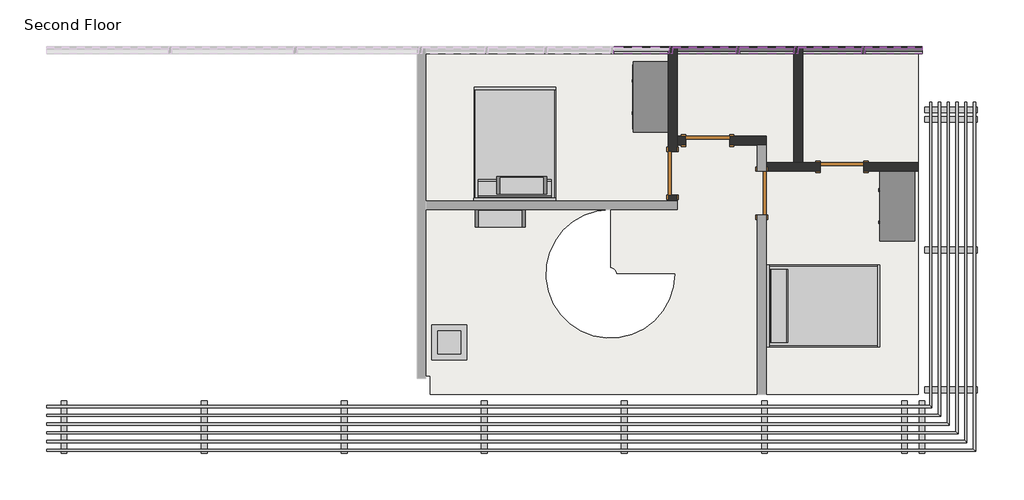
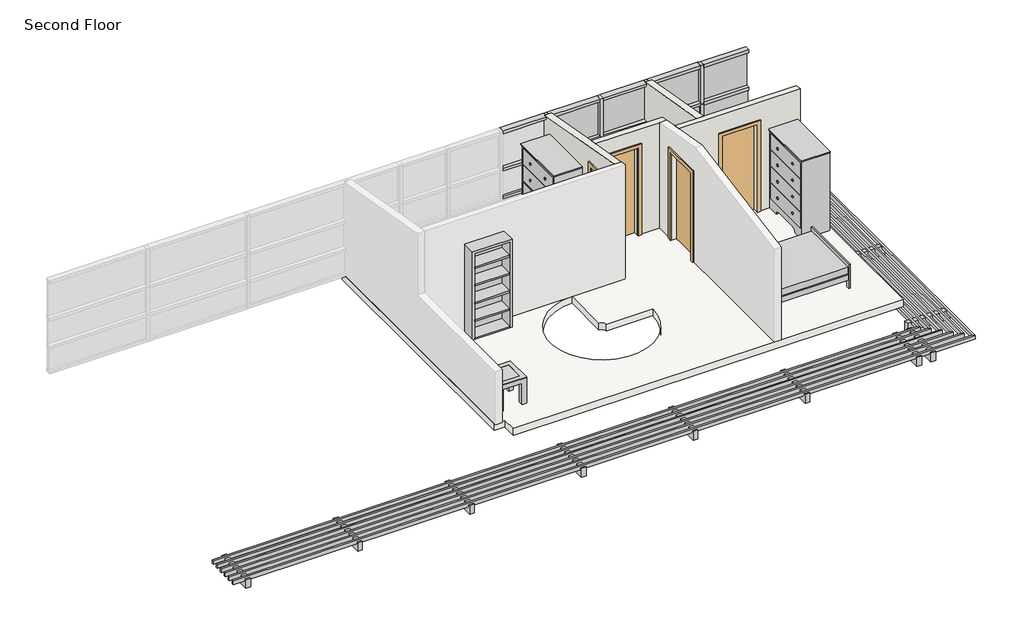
# One storey, part 2 of 2: 29 members, 10 plates, 7 furniture elements, 4 doors, 4 walls, 1 railing, 1 slab.
"""IFC4 building model written with IfcOpenShell, lengths in millimetres."""

from ifc_helpers import new_model, si_unit, point, frame, frame_2d, origin, place, context, project, spatial, polyline, circle_curve, trimmed, segment, composite_curve, outline, extrude, faceted_brep, transform, mapped, element, save
from components import door_059fdd7e, door_255cab33, furniture_096e7f55, bookcase_tall_reed_bookcase_tall_reed_faf8525b, furniture_9fa109b2, furniture_b5c51a22, rectangular_mullion_rectangular_mullion_1_6e77e263, rectangular_mullion_rectangular_mullion_1_51170729, rectangular_mullion_rectangular_mullion_1_02de63bf, rectangular_mullion_rectangular_mullion_1_5af5ffa1, rectangular_mullion_rectangular_mullion_1_cb608bd8, rectangular_mullion_rectangular_mullion_1_a2c6934b, rectangular_mullion_rectangular_mullion_1_a8fdea6a, rectangular_mullion_rectangular_mullion_1_47d101d4, rectangular_mullion_rectangular_mullion_1_b7acc795, rectangular_mullion_rectangular_mullion_1_c08724ad, rectangular_mullion_rectangular_mullion_1_400b9077, rectangular_mullion_rectangular_mullion_1_c3de6e3d, rectangular_mullion_rectangular_mullion_1_4643a8e7, rectangular_mullion_rectangular_mullion_1_71bdcf0b, rectangular_mullion_rectangular_mullion_1_437759a6, rectangular_mullion_rectangular_mullion_1_625f5eac, rectangular_mullion_rectangular_mullion_1_0cde6212, rectangular_mullion_rectangular_mullion_1_8e9d10e0, system_panel_glazed_3e889d5c, system_panel_glazed_0bad98d9, system_panel_glazed_1e53cb40, system_panel_glazed_f86903de, system_panel_solid_grey_abbc35b1, system_panel_solid_grey_94c4abe6, system_panel_solid_white_5ef82af7, system_panel_solid_white_b87bf759, system_panel_solid_white_3036c504, system_panel_solid_white_cda7d415, shading_9790fc35

model = new_model("IFC4")

# Units and contexts
model_context = context("Model", 3, world=origin())
ifc_project = project(units=[si_unit("LENGTHUNIT", "METRE", prefix="MILLI")], contexts=[model_context])

# Site, building, storey
site = spatial("IfcSite", under=ifc_project)
building = spatial("IfcBuilding", under=site)
storey = spatial("IfcBuildingStorey", under=building, Name="Second Floor", Elevation=3657.6)

# Doors
placement = place(None, origin())
door_shape = door_059fdd7e(model_context)
element("IfcDoor", 1, ObjectType="Single-Flush : 30\" x 80\"", at=placement, inside=storey, context=model_context, shape_type="MappedRepresentation", body=[
    mapped(door_shape, transform((831.9496593, 10555.9233945, 3657.6), x_axis=(1.0, 0.0, 0.0), y_axis=(0.0, 1.0, 0.0), z_axis=(0.0, 0.0, 1.0))),
])
element("IfcDoor", 2, ObjectType="Single-Flush : 30\" x 80\"", at=placement, inside=storey, context=model_context, shape_type="MappedRepresentation", body=[
    mapped(door_shape, transform((3170.563945, 10098.7233945, 3657.6), x_axis=(1.0, 0.0, 0.0), y_axis=(0.0, 1.0, 0.0), z_axis=(0.0, 0.0, 1.0))),
])
door_2_shape = door_255cab33(model_context)
element("IfcDoor", 3, ObjectType="Single-Flush : 30\" x 80\"", at=placement, inside=storey, context=model_context, shape_type="MappedRepresentation", body=[
    mapped(door_2_shape, transform((222.3496593, 9986.5400612, 3657.6), x_axis=(0.0, -1.0, 0.0), y_axis=(1.0, 0.0, 0.0), z_axis=(0.0, 0.0, 1.0))),
])
element("IfcDoor", 4, ObjectType="Single-Flush : 30\" x 80\"", at=placement, inside=storey, context=model_context, shape_type="MappedRepresentation", body=[
    mapped(door_2_shape, transform((1772.6568021, 9641.5233945, 3657.6), x_axis=(0.0, 1.0, 0.0), y_axis=(-1.0, 0.0, 0.0), z_axis=(0.0, 0.0, 1.0))),
])

# Furniture
furniture_shape = furniture_096e7f55(model_context)
element("IfcFurniture", 5, ObjectType="Bed-Shaker : Double 56\" x 78\"", at=placement, inside=storey, context=model_context, shape_type="MappedRepresentation", body=[
    mapped(furniture_shape, transform((1848.8568021, 7694.1900612, 3657.6), x_axis=(0.0, 1.0, 0.0), y_axis=(-1.0, 0.0, 0.0), z_axis=(0.0, 0.0, 1.0))),
])
element("IfcFurniture", 6, ObjectType="Bed-Shaker : Double 56\" x 78\"", at=placement, inside=storey, context=model_context, shape_type="MappedRepresentation", body=[
    mapped(furniture_shape, transform((-2543.5289122, 9503.9400612, 3657.6), x_axis=(-1.0, 0.0, 0.0), y_axis=(0.0, -1.0, 0.0), z_axis=(0.0, 0.0, 1.0))),
])
bookcase_tall_reed_bookcase_tall_reed_shape = bookcase_tall_reed_bookcase_tall_reed_faf8525b(model_context)
element("IfcFurniture", 7, ObjectType="Bookcase-Tall_Reed : Bookcase-Tall_Reed", at=placement, inside=storey, context=model_context, shape_type="MappedRepresentation", body=[
    mapped(bookcase_tall_reed_bookcase_tall_reed_shape, transform((-2778.4789122, 9195.9650612, 3657.6), x_axis=(1.0, 0.0, 0.0), y_axis=(0.0, 1.0, 0.0), z_axis=(0.0, 0.0, 1.0))),
])
element("IfcFurniture", 8, ObjectType="Bookcase-Tall_Reed : Bookcase-Tall_Reed", at=placement, inside=storey, context=model_context, shape_type="MappedRepresentation", body=[
    mapped(bookcase_tall_reed_bookcase_tall_reed_shape, transform((-2404.7401664, 9772.9038069, 3657.6), x_axis=(1.0, 0.0, 0.0), y_axis=(0.0, 1.0, 0.0), z_axis=(0.0, 0.0, 1.0))),
])
furniture_2_shape = furniture_9fa109b2(model_context)
element("IfcFurniture", 9, ObjectType="Dresser : 48\" x 72\" x 24\"", at=placement, inside=storey, context=model_context, shape_type="MappedRepresentation", body=[
    mapped(furniture_2_shape, transform((4498.0197562, 9143.7301347, 3657.6), x_axis=(0.0, -1.0, 0.0), y_axis=(1.0, 0.0, 0.0), z_axis=(0.0, 0.0, 1.0))),
])
element("IfcFurniture", 10, ObjectType="Dresser : 48\" x 72\" x 24\"", at=placement, inside=storey, context=model_context, shape_type="MappedRepresentation", body=[
    mapped(furniture_2_shape, transform((204.5126134, 11048.7301347, 3657.6), x_axis=(0.0, -1.0, 0.0), y_axis=(1.0, 0.0, 0.0), z_axis=(0.0, 0.0, 1.0))),
])
furniture_3_shape = furniture_b5c51a22(model_context)
element("IfcFurniture", 11, ObjectType="Table-Coffee : 24\" x 24\" x 24\"", at=placement, inside=storey, context=model_context, shape_type="MappedRepresentation", body=[
    mapped(furniture_3_shape, transform((-3762.68999, 7058.4058278, 3657.6), x_axis=(0.0, -1.0, 0.0), y_axis=(1.0, 0.0, 0.0), z_axis=(0.0, 0.0, 1.0))),
])

# Members
rectangular_mullion_rectangular_mullion_1_shape = rectangular_mullion_rectangular_mullion_1_6e77e263(model_context)
element("IfcMember", 12, ObjectType="Rectangular Mullion : Rectangular Mullion 1", at=placement, inside=storey, context=model_context, shape_type="MappedRepresentation", body=[
    mapped(rectangular_mullion_rectangular_mullion_1_shape, transform((193.2261726, 12132.8400612, 3657.6), x_axis=(1.0, 0.0, 0.0), y_axis=(0.0, -1.0, 0.0), z_axis=(0.0, 0.0, -1.0))),
])
element("IfcMember", 13, ObjectType="Rectangular Mullion : Rectangular Mullion 1", at=placement, inside=storey, context=model_context, shape_type="MappedRepresentation", body=[
    mapped(rectangular_mullion_rectangular_mullion_1_shape, transform((2373.6157609, 12132.8400612, 3657.6), x_axis=(1.0, 0.0, 0.0), y_axis=(0.0, -1.0, 0.0), z_axis=(0.0, 0.0, -1.0))),
])
rectangular_mullion_rectangular_mullion_1_2_shape = rectangular_mullion_rectangular_mullion_1_51170729(model_context)
element("IfcMember", 14, ObjectType="Rectangular Mullion : Rectangular Mullion 1", at=placement, inside=storey, context=model_context, shape_type="MappedRepresentation", body=[
    mapped(rectangular_mullion_rectangular_mullion_1_2_shape, transform((193.2261726, 12132.8400612, 4267.2), x_axis=(1.0, 0.0, 0.0), y_axis=(0.0, -1.0, 0.0), z_axis=(0.0, 0.0, -1.0))),
])
element("IfcMember", 15, ObjectType="Rectangular Mullion : Rectangular Mullion 1", at=placement, inside=storey, context=model_context, shape_type="MappedRepresentation", body=[
    mapped(rectangular_mullion_rectangular_mullion_1_2_shape, transform((2373.6157609, 12132.8400612, 4267.2), x_axis=(1.0, 0.0, 0.0), y_axis=(0.0, -1.0, 0.0), z_axis=(0.0, 0.0, -1.0))),
])
rectangular_mullion_rectangular_mullion_1_3_shape = rectangular_mullion_rectangular_mullion_1_02de63bf(model_context)
element("IfcMember", 16, ObjectType="Rectangular Mullion : Rectangular Mullion 1", at=placement, inside=storey, context=model_context, shape_type="MappedRepresentation", body=[
    mapped(rectangular_mullion_rectangular_mullion_1_3_shape, transform((1357.1853735, 12132.8400612, 4235.45), x_axis=(1.0, 0.0, 0.0), y_axis=(0.0, -1.0, 0.0), z_axis=(0.0, 0.0, -1.0))),
])
element("IfcMember", 17, ObjectType="Rectangular Mullion : Rectangular Mullion 1", at=placement, inside=storey, context=model_context, shape_type="MappedRepresentation", body=[
    mapped(rectangular_mullion_rectangular_mullion_1_3_shape, transform((3545.213945, 12132.8400612, 4235.45), x_axis=(1.0, 0.0, 0.0), y_axis=(0.0, -1.0, 0.0), z_axis=(0.0, 0.0, -1.0))),
])
rectangular_mullion_rectangular_mullion_1_4_shape = rectangular_mullion_rectangular_mullion_1_5af5ffa1(model_context)
element("IfcMember", 18, ObjectType="Rectangular Mullion : Rectangular Mullion 1", at=placement, inside=storey, context=model_context, shape_type="MappedRepresentation", body=[
    mapped(rectangular_mullion_rectangular_mullion_1_4_shape, transform((161.4761726, 12132.8400612, 4267.2), x_axis=(0.0, 0.0, 1.0), y_axis=(0.0, -1.0, 0.0), z_axis=(1.0, 0.0, 0.0))),
])
element("IfcMember", 19, ObjectType="Rectangular Mullion : Rectangular Mullion 1", at=placement, inside=storey, context=model_context, shape_type="MappedRepresentation", body=[
    mapped(rectangular_mullion_rectangular_mullion_1_4_shape, transform((161.4761726, 12132.8400612, 4908.55), x_axis=(0.0, 0.0, 1.0), y_axis=(0.0, -1.0, 0.0), z_axis=(1.0, 0.0, 0.0))),
])
rectangular_mullion_rectangular_mullion_1_5_shape = rectangular_mullion_rectangular_mullion_1_cb608bd8(model_context)
element("IfcMember", 20, ObjectType="Rectangular Mullion : Rectangular Mullion 1", at=placement, inside=storey, context=model_context, shape_type="MappedRepresentation", body=[
    mapped(rectangular_mullion_rectangular_mullion_1_5_shape, transform((1325.4353735, 12132.8400612, 4267.2), x_axis=(0.0, 0.0, 1.0), y_axis=(0.0, -1.0, 0.0), z_axis=(1.0, 0.0, 0.0))),
])
element("IfcMember", 21, ObjectType="Rectangular Mullion : Rectangular Mullion 1", at=placement, inside=storey, context=model_context, shape_type="MappedRepresentation", body=[
    mapped(rectangular_mullion_rectangular_mullion_1_5_shape, transform((1325.4353735, 12132.8400612, 4908.55), x_axis=(0.0, 0.0, 1.0), y_axis=(0.0, -1.0, 0.0), z_axis=(1.0, 0.0, 0.0))),
])
rectangular_mullion_rectangular_mullion_1_6_shape = rectangular_mullion_rectangular_mullion_1_a2c6934b(model_context)
element("IfcMember", 22, ObjectType="Rectangular Mullion : Rectangular Mullion 1", at=placement, inside=storey, context=model_context, shape_type="MappedRepresentation", body=[
    mapped(rectangular_mullion_rectangular_mullion_1_6_shape, transform((2341.8657609, 12132.8400612, 4267.2), x_axis=(0.0, 0.0, 1.0), y_axis=(0.0, -1.0, 0.0), z_axis=(1.0, 0.0, 0.0))),
])
element("IfcMember", 23, ObjectType="Rectangular Mullion : Rectangular Mullion 1", at=placement, inside=storey, context=model_context, shape_type="MappedRepresentation", body=[
    mapped(rectangular_mullion_rectangular_mullion_1_6_shape, transform((2341.8657609, 12132.8400612, 4908.55), x_axis=(0.0, 0.0, 1.0), y_axis=(0.0, -1.0, 0.0), z_axis=(1.0, 0.0, 0.0))),
])
rectangular_mullion_rectangular_mullion_1_7_shape = rectangular_mullion_rectangular_mullion_1_a8fdea6a(model_context)
element("IfcMember", 24, ObjectType="Rectangular Mullion : Rectangular Mullion 1", at=placement, inside=storey, context=model_context, shape_type="MappedRepresentation", body=[
    mapped(rectangular_mullion_rectangular_mullion_1_7_shape, transform((3513.463945, 12132.8400612, 4267.2), x_axis=(0.0, 0.0, 1.0), y_axis=(0.0, -1.0, 0.0), z_axis=(1.0, 0.0, 0.0))),
])
element("IfcMember", 25, ObjectType="Rectangular Mullion : Rectangular Mullion 1", at=placement, inside=storey, context=model_context, shape_type="MappedRepresentation", body=[
    mapped(rectangular_mullion_rectangular_mullion_1_7_shape, transform((3513.463945, 12132.8400612, 4908.55), x_axis=(0.0, 0.0, 1.0), y_axis=(0.0, -1.0, 0.0), z_axis=(1.0, 0.0, 0.0))),
])
rectangular_mullion_rectangular_mullion_1_8_shape = rectangular_mullion_rectangular_mullion_1_47d101d4(model_context)
element("IfcMember", 26, ObjectType="Rectangular Mullion : Rectangular Mullion 1", at=placement, inside=storey, context=model_context, shape_type="MappedRepresentation", body=[
    mapped(rectangular_mullion_rectangular_mullion_1_8_shape, transform((224.9761726, 12132.8400612, 3657.6), x_axis=(0.0, 0.0, -1.0), y_axis=(0.0, -1.0, 0.0), z_axis=(-1.0, 0.0, 0.0))),
])
rectangular_mullion_rectangular_mullion_1_9_shape = rectangular_mullion_rectangular_mullion_1_b7acc795(model_context)
element("IfcMember", 27, ObjectType="Rectangular Mullion : Rectangular Mullion 1", at=placement, inside=storey, context=model_context, shape_type="MappedRepresentation", body=[
    mapped(rectangular_mullion_rectangular_mullion_1_9_shape, transform((2405.3657609, 12132.8400612, 3657.6), x_axis=(0.0, 0.0, -1.0), y_axis=(0.0, -1.0, 0.0), z_axis=(-1.0, 0.0, 0.0))),
])
rectangular_mullion_rectangular_mullion_1_10_shape = rectangular_mullion_rectangular_mullion_1_c08724ad(model_context)
element("IfcMember", 28, ObjectType="Rectangular Mullion : Rectangular Mullion 1", at=placement, inside=storey, context=model_context, shape_type="MappedRepresentation", body=[
    mapped(rectangular_mullion_rectangular_mullion_1_10_shape, transform((1357.1853735, 12132.8400612, 3657.6), x_axis=(0.0, 0.0, -1.0), y_axis=(0.0, -1.0, 0.0), z_axis=(-1.0, 0.0, 0.0))),
])
rectangular_mullion_rectangular_mullion_1_11_shape = rectangular_mullion_rectangular_mullion_1_400b9077(model_context)
element("IfcMember", 29, ObjectType="Rectangular Mullion : Rectangular Mullion 1", at=placement, inside=storey, context=model_context, shape_type="MappedRepresentation", body=[
    mapped(rectangular_mullion_rectangular_mullion_1_11_shape, transform((161.4761726, 12132.8400612, 5802.3967633), x_axis=(0.0, 0.0, 1.0), y_axis=(0.0, -1.0, 0.0), z_axis=(1.0, 0.0, 0.0))),
])
rectangular_mullion_rectangular_mullion_1_12_shape = rectangular_mullion_rectangular_mullion_1_c3de6e3d(model_context)
element("IfcMember", 30, ObjectType="Rectangular Mullion : Rectangular Mullion 1", at=placement, inside=storey, context=model_context, shape_type="MappedRepresentation", body=[
    mapped(rectangular_mullion_rectangular_mullion_1_12_shape, transform((1325.4353735, 12132.8400612, 5802.3967633), x_axis=(0.0, 0.0, 1.0), y_axis=(0.0, -1.0, 0.0), z_axis=(1.0, 0.0, 0.0))),
])
rectangular_mullion_rectangular_mullion_1_13_shape = rectangular_mullion_rectangular_mullion_1_4643a8e7(model_context)
element("IfcMember", 31, ObjectType="Rectangular Mullion : Rectangular Mullion 1", at=placement, inside=storey, context=model_context, shape_type="MappedRepresentation", body=[
    mapped(rectangular_mullion_rectangular_mullion_1_13_shape, transform((2341.8657609, 12132.8400612, 5802.3967633), x_axis=(0.0, 0.0, 1.0), y_axis=(0.0, -1.0, 0.0), z_axis=(1.0, 0.0, 0.0))),
])
rectangular_mullion_rectangular_mullion_1_14_shape = rectangular_mullion_rectangular_mullion_1_71bdcf0b(model_context)
element("IfcMember", 32, ObjectType="Rectangular Mullion : Rectangular Mullion 1", at=placement, inside=storey, context=model_context, shape_type="MappedRepresentation", body=[
    mapped(rectangular_mullion_rectangular_mullion_1_14_shape, transform((3513.463945, 12132.8400612, 5802.3967633), x_axis=(0.0, 0.0, 1.0), y_axis=(0.0, -1.0, 0.0), z_axis=(1.0, 0.0, 0.0))),
])
rectangular_mullion_rectangular_mullion_1_15_shape = rectangular_mullion_rectangular_mullion_1_437759a6(model_context)
element("IfcMember", 33, ObjectType="Rectangular Mullion : Rectangular Mullion 1", at=placement, inside=storey, context=model_context, shape_type="MappedRepresentation", body=[
    mapped(rectangular_mullion_rectangular_mullion_1_15_shape, transform((4563.0282307, 12132.8400612, 4267.2), x_axis=(0.0, 0.0, 1.0), y_axis=(0.0, -1.0, 0.0), z_axis=(1.0, 0.0, 0.0))),
])
element("IfcMember", 34, ObjectType="Rectangular Mullion : Rectangular Mullion 1", at=placement, inside=storey, context=model_context, shape_type="MappedRepresentation", body=[
    mapped(rectangular_mullion_rectangular_mullion_1_15_shape, transform((4563.0282307, 12132.8400612, 4908.55), x_axis=(0.0, 0.0, 1.0), y_axis=(0.0, -1.0, 0.0), z_axis=(1.0, 0.0, 0.0))),
])
rectangular_mullion_rectangular_mullion_1_16_shape = rectangular_mullion_rectangular_mullion_1_625f5eac(model_context)
element("IfcMember", 35, ObjectType="Rectangular Mullion : Rectangular Mullion 1", at=placement, inside=storey, context=model_context, shape_type="MappedRepresentation", body=[
    mapped(rectangular_mullion_rectangular_mullion_1_16_shape, transform((3545.213945, 12132.8400612, 3657.6), x_axis=(0.0, 0.0, -1.0), y_axis=(0.0, -1.0, 0.0), z_axis=(-1.0, 0.0, 0.0))),
])
rectangular_mullion_rectangular_mullion_1_17_shape = rectangular_mullion_rectangular_mullion_1_0cde6212(model_context)
element("IfcMember", 36, ObjectType="Rectangular Mullion : Rectangular Mullion 1", at=placement, inside=storey, context=model_context, shape_type="MappedRepresentation", body=[
    mapped(rectangular_mullion_rectangular_mullion_1_17_shape, transform((4563.0282307, 12132.8400612, 5802.3967633), x_axis=(0.0, 0.0, 1.0), y_axis=(0.0, -1.0, 0.0), z_axis=(1.0, 0.0, 0.0))),
])
rectangular_mullion_rectangular_mullion_1_18_shape = rectangular_mullion_rectangular_mullion_1_8e9d10e0(model_context)
element("IfcMember", 37, ObjectType="Rectangular Mullion : Rectangular Mullion 1", at=placement, inside=storey, context=model_context, shape_type="MappedRepresentation", body=[
    mapped(rectangular_mullion_rectangular_mullion_1_18_shape, transform((193.2261726, 12132.8400612, 4908.55), x_axis=(1.0, 0.0, 0.0), y_axis=(0.0, -1.0, 0.0), z_axis=(0.0, 0.0, -1.0))),
])
element("IfcMember", 38, ObjectType="Rectangular Mullion : Rectangular Mullion 1", at=placement, inside=storey, context=model_context, shape_type="MappedRepresentation", body=[
    mapped(rectangular_mullion_rectangular_mullion_1_18_shape, transform((1357.1853735, 12132.8400612, 4908.55), x_axis=(1.0, 0.0, 0.0), y_axis=(0.0, -1.0, 0.0), z_axis=(0.0, 0.0, -1.0))),
])
element("IfcMember", 39, ObjectType="Rectangular Mullion : Rectangular Mullion 1", at=placement, inside=storey, context=model_context, shape_type="MappedRepresentation", body=[
    mapped(rectangular_mullion_rectangular_mullion_1_18_shape, transform((2373.6157609, 12132.8400612, 4908.55), x_axis=(1.0, 0.0, 0.0), y_axis=(0.0, -1.0, 0.0), z_axis=(0.0, 0.0, -1.0))),
])
element("IfcMember", 40, ObjectType="Rectangular Mullion : Rectangular Mullion 1", at=placement, inside=storey, context=model_context, shape_type="MappedRepresentation", body=[
    mapped(rectangular_mullion_rectangular_mullion_1_18_shape, transform((3545.213945, 12132.8400612, 4908.55), x_axis=(1.0, 0.0, 0.0), y_axis=(0.0, -1.0, 0.0), z_axis=(0.0, 0.0, -1.0))),
])

# Plates
system_panel_glazed_shape = system_panel_glazed_3e889d5c(model_context)
element("IfcPlate", 41, ObjectType="System Panel : Glazed", at=placement, inside=storey, context=model_context, shape_type="MappedRepresentation", body=[
    mapped(system_panel_glazed_shape, transform((775.2057731, 12132.8400612, 4940.3), x_axis=(1.0, 0.0, 0.0), y_axis=(0.0, 1.0, 0.0), z_axis=(0.0, 0.0, 1.0))),
])
system_panel_glazed_2_shape = system_panel_glazed_0bad98d9(model_context)
element("IfcPlate", 42, ObjectType="System Panel : Glazed", at=placement, inside=storey, context=model_context, shape_type="MappedRepresentation", body=[
    mapped(system_panel_glazed_2_shape, transform((1865.4005672, 12132.8400612, 4940.3), x_axis=(1.0, 0.0, 0.0), y_axis=(0.0, 1.0, 0.0), z_axis=(0.0, 0.0, 1.0))),
])
system_panel_glazed_3_shape = system_panel_glazed_1e53cb40(model_context)
element("IfcPlate", 43, ObjectType="System Panel : Glazed", at=placement, inside=storey, context=model_context, shape_type="MappedRepresentation", body=[
    mapped(system_panel_glazed_3_shape, transform((2959.414853, 12132.8400612, 4940.3), x_axis=(1.0, 0.0, 0.0), y_axis=(0.0, 1.0, 0.0), z_axis=(0.0, 0.0, 1.0))),
])
system_panel_glazed_4_shape = system_panel_glazed_f86903de(model_context)
element("IfcPlate", 44, ObjectType="System Panel : Glazed", at=placement, inside=storey, context=model_context, shape_type="MappedRepresentation", body=[
    mapped(system_panel_glazed_4_shape, transform((4069.9960878, 12132.8400612, 4940.3), x_axis=(1.0, 0.0, 0.0), y_axis=(0.0, 1.0, 0.0), z_axis=(0.0, 0.0, 1.0))),
])
system_panel_solid_grey_shape = system_panel_solid_grey_abbc35b1(model_context)
element("IfcPlate", 45, ObjectType="System Panel : Solid - Grey", at=placement, inside=storey, context=model_context, shape_type="MappedRepresentation", body=[
    mapped(system_panel_solid_grey_shape, transform((775.2057731, 12132.8400612, 4298.95), x_axis=(1.0, 0.0, 0.0), y_axis=(0.0, 1.0, 0.0), z_axis=(0.0, 0.0, 1.0))),
])
system_panel_solid_grey_2_shape = system_panel_solid_grey_94c4abe6(model_context)
element("IfcPlate", 46, ObjectType="System Panel : Solid - Grey", at=placement, inside=storey, context=model_context, shape_type="MappedRepresentation", body=[
    mapped(system_panel_solid_grey_2_shape, transform((4069.9960878, 12132.8400612, 4298.95), x_axis=(1.0, 0.0, 0.0), y_axis=(0.0, 1.0, 0.0), z_axis=(0.0, 0.0, 1.0))),
])
system_panel_solid_white_shape = system_panel_solid_white_5ef82af7(model_context)
element("IfcPlate", 47, ObjectType="System Panel : Solid - White", at=placement, inside=storey, context=model_context, shape_type="MappedRepresentation", body=[
    mapped(system_panel_solid_white_shape, transform((1283.4209668, 12132.8400612, 3721.1), x_axis=(1.0, 0.0, 0.0), y_axis=(0.0, 1.0, 0.0), z_axis=(0.0, 0.0, 1.0))),
])
system_panel_solid_white_2_shape = system_panel_solid_white_b87bf759(model_context)
element("IfcPlate", 48, ObjectType="System Panel : Solid - White", at=placement, inside=storey, context=model_context, shape_type="MappedRepresentation", body=[
    mapped(system_panel_solid_white_2_shape, transform((1865.4005672, 12132.8400612, 4298.95), x_axis=(1.0, 0.0, 0.0), y_axis=(0.0, 1.0, 0.0), z_axis=(0.0, 0.0, 1.0))),
])
system_panel_solid_white_3_shape = system_panel_solid_white_3036c504(model_context)
element("IfcPlate", 49, ObjectType="System Panel : Solid - White", at=placement, inside=storey, context=model_context, shape_type="MappedRepresentation", body=[
    mapped(system_panel_solid_white_3_shape, transform((2959.414853, 12132.8400612, 4298.95), x_axis=(1.0, 0.0, 0.0), y_axis=(0.0, 1.0, 0.0), z_axis=(0.0, 0.0, 1.0))),
])
system_panel_solid_white_4_shape = system_panel_solid_white_cda7d415(model_context)
element("IfcPlate", 50, ObjectType="System Panel : Solid - White", at=placement, inside=storey, context=model_context, shape_type="MappedRepresentation", body=[
    mapped(system_panel_solid_white_4_shape, transform((3484.1969958, 12132.8400612, 3721.1), x_axis=(1.0, 0.0, 0.0), y_axis=(0.0, 1.0, 0.0), z_axis=(0.0, 0.0, 1.0))),
])

# Railing
shading_shape = shading_9790fc35(model_context)
element("IfcRailing", 51, ObjectType="Shading", at=placement, inside=storey, context=model_context, shape_type="MappedRepresentation", body=[
    mapped(shading_shape, transform((0.0, 0.0, 0.0), x_axis=(1.0, 0.0, 0.0), y_axis=(0.0, 1.0, 0.0), z_axis=(0.0, 0.0, 1.0))),
])

# Slab
element("IfcSlab", 52, ObjectType="Concrete Slab - 6\"", at=placement, inside=storey, context=model_context, shape_type="SweptSolid", body=[
    extrude(outline(polyline([(4499.5282307, 12196.3400612), (4499.5282307, 6138.4400612), (-3997.6789122, 6138.4400612), (-3997.6789122, 6455.9400612), (-4226.2789122, 6455.9400612), (-4226.2789122, 12196.3400612), (4499.5282307, 12196.3400612)]), holes=[composite_curve([segment(polyline([(256.5289515, 8233.8032411), (-759.4763327, 8233.8032411)]), True, "CONTINUOUS"), segment(trimmed(circle_curve(frame_2d((-861.1244845, 8233.8032411)), 101.6481518), [point((-759.4763327, 8233.8032411))], [point((-861.1244845, 8335.451393))], True, "CARTESIAN"), True, "CONTINUOUS"), segment(polyline([(-861.1244845, 8335.451393), (-861.1244845, 9351.4566772)]), True, "CONTINUOUS"), segment(trimmed(circle_curve(frame_2d((-861.1244845, 8233.8032411)), 1117.6534361), [point((-861.1244845, 9351.4566772))], [point((256.5289515, 8233.8032411))], True, "CARTESIAN"), True, "CONTINUOUS")], self_intersect=False)]), frame((0.0, 0.0, 3505.2), z_axis=(0.0, 0.0, 1.0), x_axis=(1.0, 0.0, 0.0)), (0.0, 0.0, 1.0), 152.4),
])

# Walls
element("IfcWall", 53, ObjectType="Generic Wall - 6\"", at=placement, inside=storey, context=model_context, shape_type="Brep", body=[
    faceted_brep([(298.5496593, 12196.3400612, 3657.6), (298.5496593, 12196.3400612, 5791.2), (298.5496593, 10632.1233945, 6067.013602), (298.5496593, 10479.7233945, 6093.8858339), (298.5496593, 9503.9400612, 6265.9427629), (298.5496593, 9503.9400612, 3657.6), (298.5496593, 9605.5400612, 3657.6), (298.5496593, 9605.5400612, 5689.6), (298.5496593, 10367.5400612, 5689.6), (298.5496593, 10367.5400612, 3657.6), (298.5496593, 10479.7233945, 3657.6), (298.5496593, 10632.1233945, 3657.6), (146.1496593, 12196.3400612, 5791.2), (146.1496593, 12196.3400612, 3657.6), (146.1496593, 10367.5400612, 3657.6), (146.1496593, 10367.5400612, 5689.6), (146.1496593, 9605.5400612, 5689.6), (146.1496593, 9605.5400612, 3657.6), (146.1496593, 9503.9400612, 3657.6), (146.1496593, 9503.9400612, 6265.9427629)], [[[0, 1, 2, 3, 4, 5, 6, 7, 8, 9, 10, 11]], [[12, 13, 14, 15, 16, 17, 18, 19]], [[13, 0, 11, 10, 9, 14]], [[5, 18, 17, 6]], [[1, 0, 13, 12]], [[5, 4, 19, 18]], [[7, 16, 15, 8]], [[8, 15, 14, 9]], [[16, 7, 6, 17]], [[4, 3, 2, 1, 12, 19]]]),
])
element("IfcWall", 54, ObjectType="Generic Wall - 6\"", at=placement, inside=storey, context=model_context, shape_type="SweptSolid", body=[
    extrude(outline(polyline([(12196.3400612, 3657.6), (10174.9233945, 3657.6), (10174.9233945, 6147.6302976), (12196.3400612, 5791.2), (12196.3400612, 3657.6)])), frame((2332.363945, 0.0, 0.0), z_axis=(1.0, 0.0, 0.0), x_axis=(0.0, 1.0, 0.0)), (0.0, 0.0, 1.0), 152.4),
])
element("IfcWall", 55, ObjectType="Generic Wall - 6\"", at=placement, inside=storey, context=model_context, shape_type="Brep", body=[
    faceted_brep([(4499.5282307, 10174.9233945, 3657.6), (3551.563945, 10174.9233945, 3657.6), (3551.563945, 10174.9233945, 5689.6), (2789.563945, 10174.9233945, 5689.6), (2789.563945, 10174.9233945, 3657.6), (2484.763945, 10174.9233945, 3657.6), (2332.363945, 10174.9233945, 3657.6), (1848.8568021, 10174.9233945, 3657.6), (1848.8568021, 10174.9233945, 6147.6302976), (2332.363945, 10174.9233945, 6147.6302976), (2484.763945, 10174.9233945, 6147.6302976), (4499.5282307, 10174.9233945, 6147.6302976), (3551.563945, 10022.5233945, 5689.6), (3551.563945, 10022.5233945, 3657.6), (4499.5282307, 10022.5233945, 3657.6), (4499.5282307, 10022.5233945, 6174.5025294), (1848.8568021, 10022.5233945, 6174.5025294), (1848.8568021, 10022.5233945, 5689.6), (1848.8568021, 10022.5233945, 3657.6), (2789.563945, 10022.5233945, 3657.6), (2789.563945, 10022.5233945, 5689.6)], [[[0, 1, 2, 3, 4, 5, 6, 7, 8, 9, 10, 11]], [[12, 13, 14, 15, 16, 17, 18, 19, 20]], [[19, 18, 7, 6, 5, 4]], [[14, 13, 1, 0]], [[0, 11, 15, 14]], [[8, 7, 18, 17, 16]], [[2, 1, 13, 12]], [[3, 2, 12, 20]], [[4, 3, 20, 19]], [[11, 10, 9, 8, 16, 15]]]),
])
element("IfcWall", 56, ObjectType="Generic Wall - 6\"", at=placement, inside=storey, context=model_context, shape_type="Brep", body=[
    faceted_brep([(1848.8568021, 10632.1233945, 3657.6), (1212.9496593, 10632.1233945, 3657.6), (1212.9496593, 10632.1233945, 5689.6), (450.9496593, 10632.1233945, 5689.6), (450.9496593, 10632.1233945, 3657.6), (298.5496593, 10632.1233945, 3657.6), (298.5496593, 10632.1233945, 6067.013602), (1848.8568021, 10632.1233945, 6067.013602), (1212.9496593, 10479.7233945, 5689.6), (1212.9496593, 10479.7233945, 3657.6), (1696.4568021, 10479.7233945, 3657.6), (1848.8568021, 10479.7233945, 3657.6), (1848.8568021, 10479.7233945, 6093.8858339), (1696.4568021, 10479.7233945, 6093.8858339), (298.5496593, 10479.7233945, 6093.8858339), (298.5496593, 10479.7233945, 3657.6), (450.9496593, 10479.7233945, 3657.6), (450.9496593, 10479.7233945, 5689.6)], [[[0, 1, 2, 3, 4, 5, 6, 7]], [[8, 9, 10, 11, 12, 13, 14, 15, 16, 17]], [[16, 15, 5, 4]], [[11, 10, 9, 1, 0]], [[6, 5, 15, 14]], [[0, 7, 12, 11]], [[2, 1, 9, 8]], [[3, 2, 8, 17]], [[4, 3, 17, 16]], [[7, 6, 14, 13, 12]]]),
])

save(model, "model.ifc")
